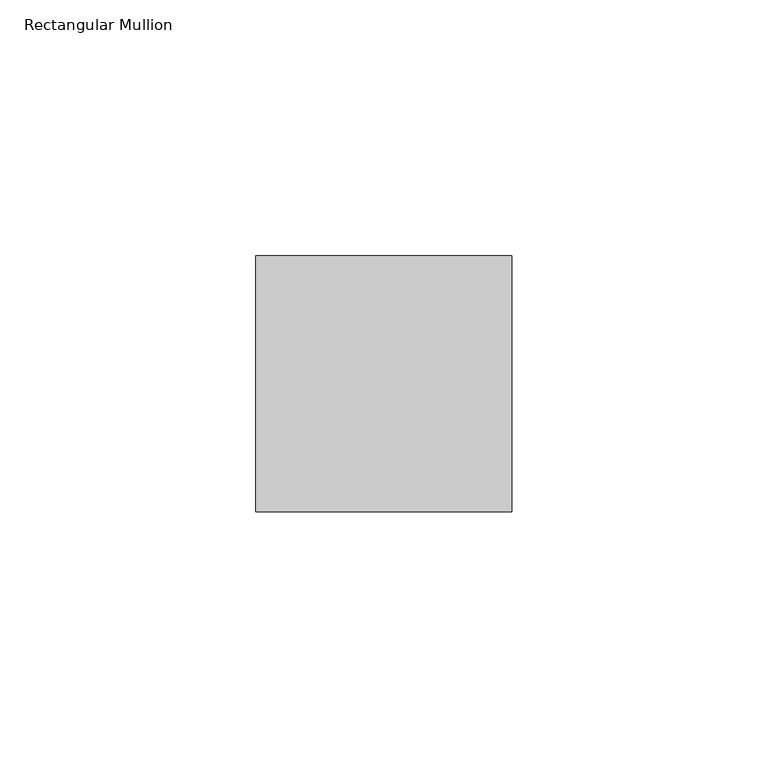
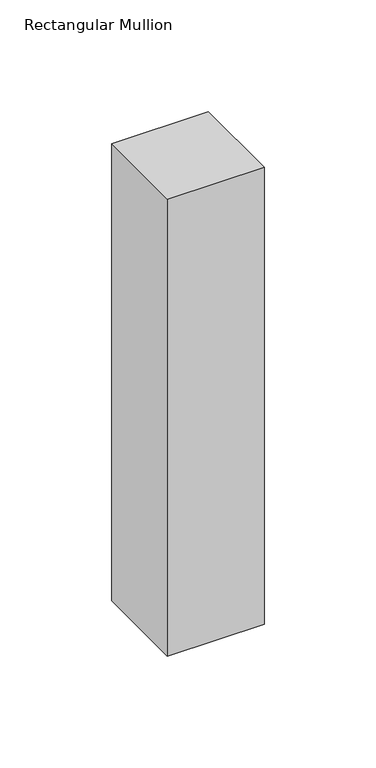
"""IFC4 building model written with IfcOpenShell, lengths in millimetres: member geometry, Rectangular Mullion : RSen_21_CWM_support profile 50x50 - left_gen_duco projects."""

from ifc_helpers import new_model, si_unit, frame, origin, place, context, project, spatial, polyline, outline, extrude, source, transform, mapped, element, save


def rectangular_mullion_eeaea343(model_context):
    return source(origin(), model_context, "Body", "SweptSolid", [
        extrude(outline(polyline([(0.0, 1.0), (0.0, -49.0), (-50.0, -49.0), (-50.0, 1.0), (0.0, 1.0)])), frame((0.0, 0.0, -250.0), z_axis=(0.0, 0.0, 1.0), x_axis=(1.0, 0.0, 0.0)), (0.0, 0.0, 1.0), 250.0),
    ])


if __name__ == "__main__":
    model = new_model("IFC4")
    model_context = context("Model", 3, world=origin())
    ifc_project = project(units=[si_unit("LENGTHUNIT", "METRE", prefix="MILLI")], contexts=[model_context])
    site = spatial("IfcSite", under=ifc_project)
    building = spatial("IfcBuilding", under=site)
    placement = place(None, origin())
    rectangular_mullion_shape = rectangular_mullion_eeaea343(model_context)
    element("IfcMember", 1, ObjectType="Rectangular Mullion : RSen_21_CWM_support profile 50x50 - left_gen_duco projects", at=placement, inside=building, context=model_context, shape_type="MappedRepresentation", body=[
        mapped(rectangular_mullion_shape, transform((0.0, 0.0, 0.0), x_axis=(1.0, 0.0, 0.0), y_axis=(0.0, 1.0, 0.0), z_axis=(0.0, 0.0, 1.0))),
    ])
    save(model, "model.ifc")
